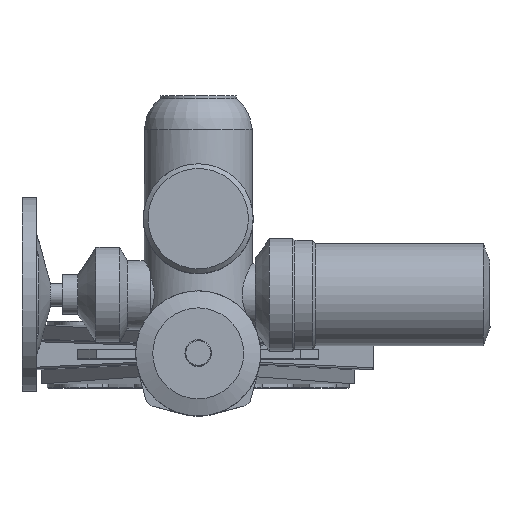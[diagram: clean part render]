
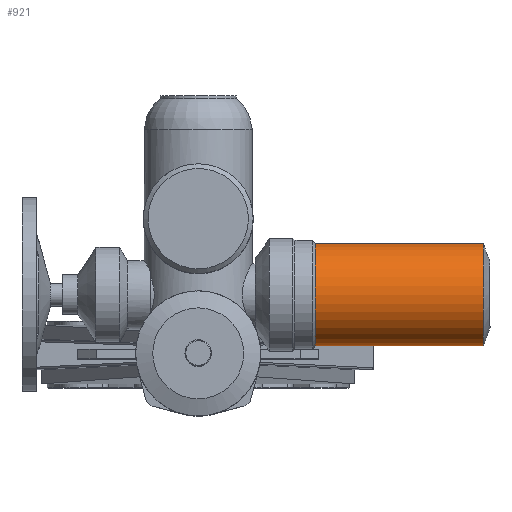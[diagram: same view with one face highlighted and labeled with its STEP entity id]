
A CAD part, top view. The second image highlights one B-rep face of the part: STEP entity #921.
In plain terms, the highlighted cylindrical face has radius 54 mm (diameter 108 mm), a full revolution.
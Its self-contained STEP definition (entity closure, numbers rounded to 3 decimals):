
#921=ADVANCED_FACE('',(#3221,#3223),#3225,.T.);
#3221=FACE_OUTER_BOUND('',#3222,.T.);
#3222=EDGE_LOOP('',(#4927));
#3223=FACE_OUTER_BOUND('',#3224,.T.);
#3224=EDGE_LOOP('',(#4928));
#3225=CYLINDRICAL_SURFACE('',#3226,54.);
#3226=AXIS2_PLACEMENT_3D('',#3227,#3228,#3229);
#3227=CARTESIAN_POINT('',(301.085,62.,788.));
#3228=DIRECTION('',(-1.,0.,0.));
#3229=DIRECTION('',(0.,0.,1.));
#4927=ORIENTED_EDGE('',*,*,#6060,.T.);
#4928=ORIENTED_EDGE('',*,*,#5971,.F.);
#5971=EDGE_CURVE('',#6762,#6762,#6763,.T.);
#6060=EDGE_CURVE('',#6916,#6916,#6917,.T.);
#6762=VERTEX_POINT('',#9389);
#6763=CIRCLE('',#9390,54.);
#6916=VERTEX_POINT('',#9739);
#6917=CIRCLE('',#9740,54.);
#9389=CARTESIAN_POINT('',(123.505,62.,842.));
#9390=AXIS2_PLACEMENT_3D('',#9391,#9392,#9393);
#9391=CARTESIAN_POINT('',(123.505,62.,788.));
#9392=DIRECTION('',(-1.,0.,0.));
#9393=DIRECTION('',(0.,0.,1.));
#9739=CARTESIAN_POINT('',(301.085,62.,842.));
#9740=AXIS2_PLACEMENT_3D('',#9741,#9742,#9743);
#9741=CARTESIAN_POINT('',(301.085,62.,788.));
#9742=DIRECTION('',(-1.,0.,0.));
#9743=DIRECTION('',(0.,0.,1.));
